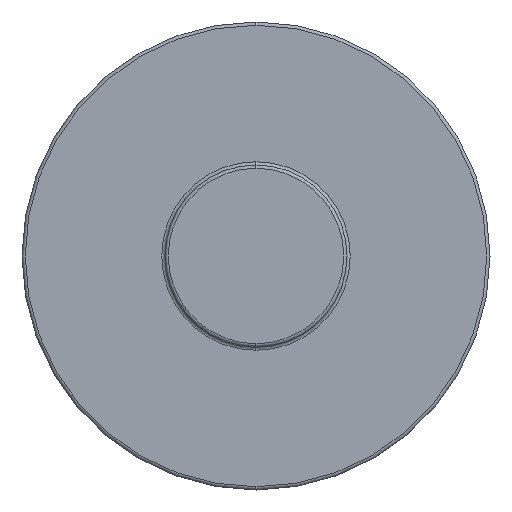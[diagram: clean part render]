
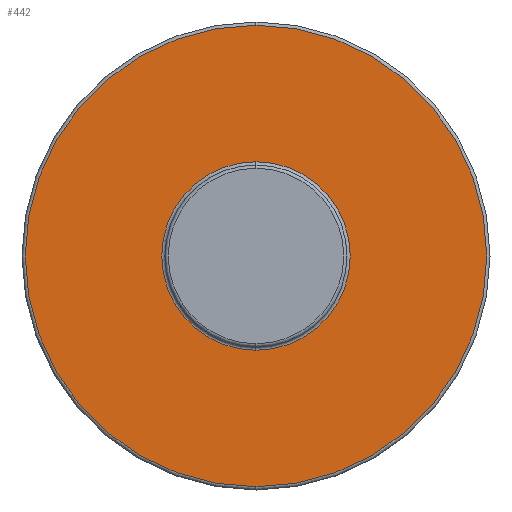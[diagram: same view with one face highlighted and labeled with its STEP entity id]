
A CAD part, front view. The second image highlights one B-rep face of the part: STEP entity #442.
In plain terms, the highlighted planar face has unit normal (0, -1, 0) as drawn and (-1, 0, 0) by its records, which use the part's own axes.
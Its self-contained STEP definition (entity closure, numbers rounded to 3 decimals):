
#54 = DIRECTION ( 'NONE',  ( 0., 0., -1. ) ) ;
#420 = DIRECTION ( 'NONE',  ( 1., 0., 0. ) ) ;
#442 = ADVANCED_FACE ( 'NONE', ( #494, #4781 ), #3221, .F. ) ;
#494 = FACE_OUTER_BOUND ( 'NONE', #2637, .T. ) ;
#539 = VERTEX_POINT ( 'NONE', #609 ) ;
#609 = CARTESIAN_POINT ( 'NONE',  ( 0., 0., -14.5 ) ) ;
#752 = AXIS2_PLACEMENT_3D ( 'NONE', #3507, #4321, #3537 ) ;
#763 = CARTESIAN_POINT ( 'NONE',  ( 0., 0., 0. ) ) ;
#804 = DIRECTION ( 'NONE',  ( -1., 0., 0. ) ) ;
#837 = CIRCLE ( 'NONE', #752, 14.5 ) ;
#877 = CARTESIAN_POINT ( 'NONE',  ( 0., 0., 0. ) ) ;
#996 = CIRCLE ( 'NONE', #3589, 35.5 ) ;
#1026 = VERTEX_POINT ( 'NONE', #1553 ) ;
#1150 = DIRECTION ( 'NONE',  ( 0., 0., -1. ) ) ;
#1283 = VERTEX_POINT ( 'NONE', #4181 ) ;
#1433 = DIRECTION ( 'NONE',  ( 0., 0., -1. ) ) ;
#1553 = CARTESIAN_POINT ( 'NONE',  ( 0., 0., 14.5 ) ) ;
#1785 = CARTESIAN_POINT ( 'NONE',  ( 0., 0., 35.5 ) ) ;
#2241 = ORIENTED_EDGE ( 'NONE', *, *, #4046, .T. ) ;
#2424 = ORIENTED_EDGE ( 'NONE', *, *, #4680, .T. ) ;
#2637 = EDGE_LOOP ( 'NONE', ( #3542, #2241 ) ) ;
#2654 = CIRCLE ( 'NONE', #3966, 35.5 ) ;
#2857 = ORIENTED_EDGE ( 'NONE', *, *, #4076, .T. ) ;
#3221 = PLANE ( 'NONE',  #4589 ) ;
#3507 = CARTESIAN_POINT ( 'NONE',  ( 0., 0., 0. ) ) ;
#3518 = DIRECTION ( 'NONE',  ( 1., 0., 0. ) ) ;
#3537 = DIRECTION ( 'NONE',  ( 0., 0., -1. ) ) ;
#3542 = ORIENTED_EDGE ( 'NONE', *, *, #4386, .T. ) ;
#3589 = AXIS2_PLACEMENT_3D ( 'NONE', #4944, #3748, #1433 ) ;
#3734 = CIRCLE ( 'NONE', #4416, 14.5 ) ;
#3748 = DIRECTION ( 'NONE',  ( -1., 0., 0. ) ) ;
#3966 = AXIS2_PLACEMENT_3D ( 'NONE', #4626, #804, #1150 ) ;
#3972 = DIRECTION ( 'NONE',  ( 0., 0., -1. ) ) ;
#4046 = EDGE_CURVE ( 'NONE', #4074, #1283, #996, .T. ) ;
#4074 = VERTEX_POINT ( 'NONE', #1785 ) ;
#4076 = EDGE_CURVE ( 'NONE', #539, #1026, #837, .T. ) ;
#4181 = CARTESIAN_POINT ( 'NONE',  ( 0., 0., -35.5 ) ) ;
#4321 = DIRECTION ( 'NONE',  ( 1., 0., 0. ) ) ;
#4386 = EDGE_CURVE ( 'NONE', #1283, #4074, #2654, .T. ) ;
#4416 = AXIS2_PLACEMENT_3D ( 'NONE', #763, #3518, #54 ) ;
#4589 = AXIS2_PLACEMENT_3D ( 'NONE', #877, #420, #3972 ) ;
#4626 = CARTESIAN_POINT ( 'NONE',  ( 0., 0., 0. ) ) ;
#4645 = EDGE_LOOP ( 'NONE', ( #2857, #2424 ) ) ;
#4680 = EDGE_CURVE ( 'NONE', #1026, #539, #3734, .T. ) ;
#4781 = FACE_BOUND ( 'NONE', #4645, .T. ) ;
#4944 = CARTESIAN_POINT ( 'NONE',  ( 0., 0., 0. ) ) ;
